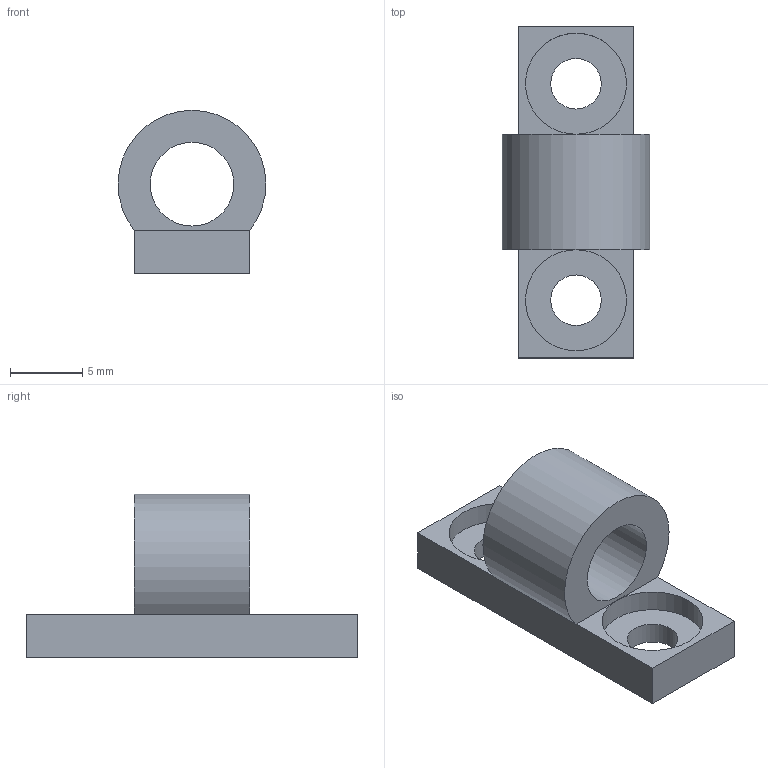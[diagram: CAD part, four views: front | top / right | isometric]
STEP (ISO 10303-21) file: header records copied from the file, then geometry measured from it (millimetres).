
FILE_DESCRIPTION(/* description */ (''),/* implementation_level */ '2;1');
FILE_NAME(/* name */ 'C:/Users/David Florian/Desktop/Cyber-Scooter-Step-Files/15-Brake-Cable-Manager2.step',/* time_stamp */ '2020-12-14T22:27:12-06:00',/* author */ (''),/* organization */ (''),/* preprocessor_version */ 'ST-DEVELOPER v18.1',/* originating_system */ 'Autodesk Translation Framework v9.7.1.1290',/* authorisation */ '');
FILE_SCHEMA (('AUTOMOTIVE_DESIGN { 1 0 10303 214 3 1 1 }'));
Length unit declared in the file: millimetre
Products named in the file (1): Brake-Cable-Management-3
Bounding box: 10.24 x 23 x 11.32 mm (x, y, z)
Volume: 770.1 mm3; surface area: 970.9 mm2
Topology: 1 solids, 1 shells, 17 faces, 39 edges, 24 vertices
Faces by surface type: plane 11, cylinder 6
Full cylindrical faces by diameter (mm): 3.5 x2, 5.8 x1, 7 x2
Entity records: 524 total; most frequent: DIRECTION 89, CARTESIAN_POINT 81, ORIENTED_EDGE 78, EDGE_CURVE 39, AXIS2_PLACEMENT_3D 32, LINE 25, VECTOR 25, VERTEX_POINT 24
